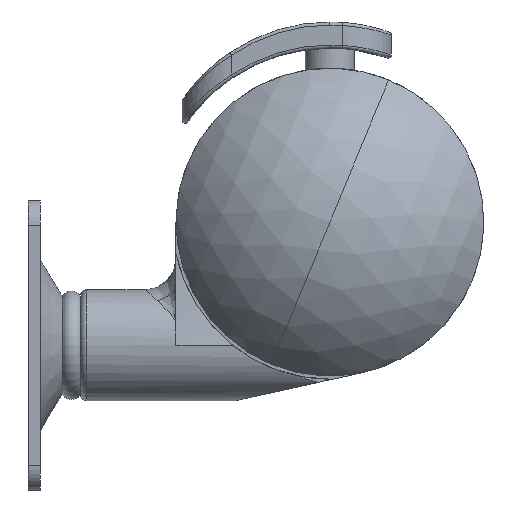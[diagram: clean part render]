
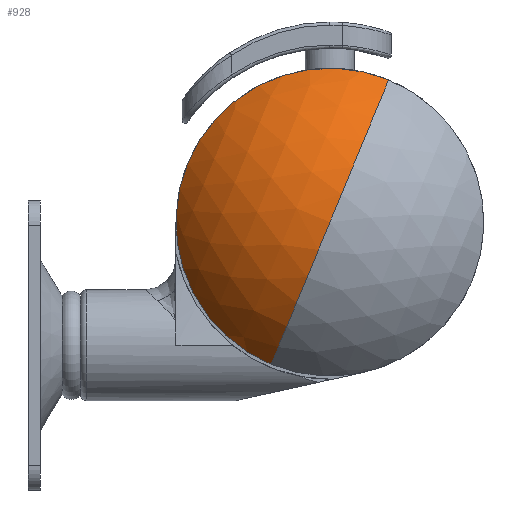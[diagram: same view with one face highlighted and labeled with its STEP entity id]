
A CAD part, left-side view. The second image highlights one B-rep face of the part: STEP entity #928.
In plain terms, the highlighted spherical face has radius 30 mm.
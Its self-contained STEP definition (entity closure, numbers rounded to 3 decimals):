
#161 = AXIS2_PLACEMENT_3D ( 'NONE', #2849, #2869, #1615 ) ;
#225 = AXIS2_PLACEMENT_3D ( 'NONE', #1717, #1838, #4107 ) ;
#373 = DIRECTION ( 'NONE',  ( 0., 0., 1. ) ) ;
#457 = EDGE_CURVE ( 'NONE', #2563, #703, #3833, .T. ) ;
#649 = CARTESIAN_POINT ( 'NONE',  ( -3.5, 0., 0. ) ) ;
#703 = VERTEX_POINT ( 'NONE', #845 ) ;
#742 = CARTESIAN_POINT ( 'NONE',  ( 13.083, 0., -25. ) ) ;
#820 = ORIENTED_EDGE ( 'NONE', *, *, #3466, .F. ) ;
#845 = CARTESIAN_POINT ( 'NONE',  ( 13.083, -25., 0. ) ) ;
#866 = CIRCLE ( 'NONE', #4082, 30. ) ;
#928 = ADVANCED_FACE ( 'NONE', ( #2518 ), #3114, .T. ) ;
#1109 = DIRECTION ( 'NONE',  ( 0., 1., 0. ) ) ;
#1130 = DIRECTION ( 'NONE',  ( 0., 0., -1. ) ) ;
#1219 = CIRCLE ( 'NONE', #3272, 30. ) ;
#1615 = DIRECTION ( 'NONE',  ( 0., 1., 0. ) ) ;
#1717 = CARTESIAN_POINT ( 'NONE',  ( 13.083, 0., 0. ) ) ;
#1764 = DIRECTION ( 'NONE',  ( 0., 0., 1. ) ) ;
#1838 = DIRECTION ( 'NONE',  ( -1., 0., 0. ) ) ;
#1990 = EDGE_LOOP ( 'NONE', ( #820, #4113, #3586, #2057 ) ) ;
#2057 = ORIENTED_EDGE ( 'NONE', *, *, #2616, .F. ) ;
#2147 = VERTEX_POINT ( 'NONE', #2735 ) ;
#2394 = EDGE_CURVE ( 'NONE', #2147, #703, #866, .T. ) ;
#2518 = FACE_OUTER_BOUND ( 'NONE', #1990, .T. ) ;
#2563 = VERTEX_POINT ( 'NONE', #742 ) ;
#2616 = EDGE_CURVE ( 'NONE', #2655, #2563, #3482, .T. ) ;
#2655 = VERTEX_POINT ( 'NONE', #3055 ) ;
#2735 = CARTESIAN_POINT ( 'NONE',  ( 26.5, 0., 0. ) ) ;
#2744 = CARTESIAN_POINT ( 'NONE',  ( 13.083, 0., 0. ) ) ;
#2747 = AXIS2_PLACEMENT_3D ( 'NONE', #2744, #3048, #1764 ) ;
#2849 = CARTESIAN_POINT ( 'NONE',  ( -3.5, 0., 0. ) ) ;
#2869 = DIRECTION ( 'NONE',  ( 0., 0., -1. ) ) ;
#3019 = CARTESIAN_POINT ( 'NONE',  ( -3.5, 0., 0. ) ) ;
#3048 = DIRECTION ( 'NONE',  ( -1., 0., 0. ) ) ;
#3055 = CARTESIAN_POINT ( 'NONE',  ( 13.083, 25., 0. ) ) ;
#3114 = SPHERICAL_SURFACE ( 'NONE', #161, 30. ) ;
#3272 = AXIS2_PLACEMENT_3D ( 'NONE', #649, #373, #3539 ) ;
#3466 = EDGE_CURVE ( 'NONE', #2147, #2655, #1219, .T. ) ;
#3482 = CIRCLE ( 'NONE', #2747, 25. ) ;
#3539 = DIRECTION ( 'NONE',  ( 1., 0., 0. ) ) ;
#3586 = ORIENTED_EDGE ( 'NONE', *, *, #457, .F. ) ;
#3833 = CIRCLE ( 'NONE', #225, 25. ) ;
#4082 = AXIS2_PLACEMENT_3D ( 'NONE', #3019, #1130, #1109 ) ;
#4107 = DIRECTION ( 'NONE',  ( 0., 0., 1. ) ) ;
#4113 = ORIENTED_EDGE ( 'NONE', *, *, #2394, .T. ) ;
